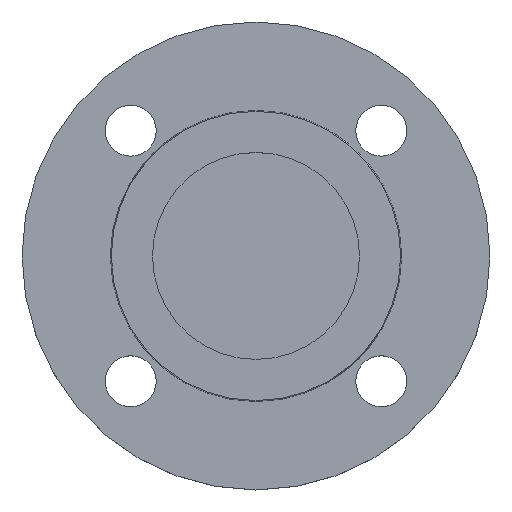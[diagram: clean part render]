
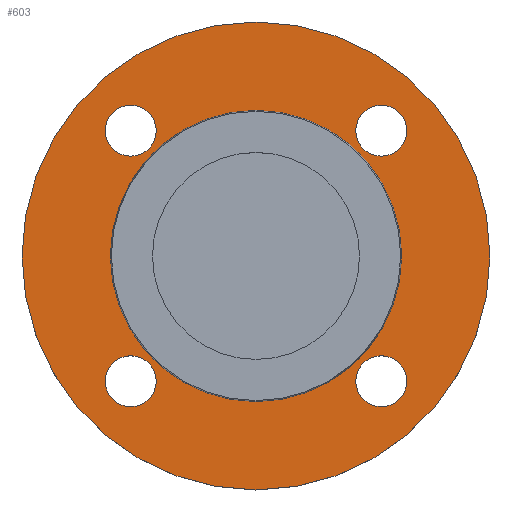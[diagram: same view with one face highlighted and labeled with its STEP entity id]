
A CAD part, top view. The second image highlights one B-rep face of the part: STEP entity #603.
In plain terms, the highlighted planar face has unit normal (0, 0, 1).
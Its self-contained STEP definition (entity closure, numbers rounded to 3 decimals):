
#2 = DIRECTION ( 'NONE',  ( 1., 0., 0. ) ) ;
#10 = EDGE_CURVE ( 'NONE', #465, #434, #194, .T. ) ;
#30 = CIRCLE ( 'NONE', #502, 9. ) ;
#38 = EDGE_CURVE ( 'NONE', #265, #490, #92, .T. ) ;
#40 = AXIS2_PLACEMENT_3D ( 'NONE', #655, #657, #659 ) ;
#43 = AXIS2_PLACEMENT_3D ( 'NONE', #727, #728, #374 ) ;
#51 = DIRECTION ( 'NONE',  ( 0., 0., -1. ) ) ;
#57 = DIRECTION ( 'NONE',  ( -1., 0., 0. ) ) ;
#76 = DIRECTION ( 'NONE',  ( -1., 0., 0. ) ) ;
#88 = DIRECTION ( 'NONE',  ( 1., 0., 0. ) ) ;
#89 = DIRECTION ( 'NONE',  ( 0., 0., -1. ) ) ;
#90 = CARTESIAN_POINT ( 'NONE',  ( -44.194, 44.194, -2. ) ) ;
#91 = DIRECTION ( 'NONE',  ( 1., 0., 0. ) ) ;
#92 = CIRCLE ( 'NONE', #464, 51.353 ) ;
#93 = DIRECTION ( 'NONE',  ( 0., 0., 1. ) ) ;
#94 = CARTESIAN_POINT ( 'NONE',  ( 51.353, 0., -2. ) ) ;
#95 = PLANE ( 'NONE',  #713 ) ;
#96 = FACE_OUTER_BOUND ( 'NONE', #324, .T. ) ;
#97 = EDGE_CURVE ( 'NONE', #472, #463, #262, .T. ) ;
#100 = FACE_BOUND ( 'NONE', #333, .T. ) ;
#101 = FACE_BOUND ( 'NONE', #261, .T. ) ;
#103 = FACE_BOUND ( 'NONE', #249, .T. ) ;
#105 = FACE_BOUND ( 'NONE', #455, .T. ) ;
#108 = CIRCLE ( 'NONE', #366, 9. ) ;
#116 = AXIS2_PLACEMENT_3D ( 'NONE', #90, #89, #88 ) ;
#130 = CARTESIAN_POINT ( 'NONE',  ( 53.194, -44.194, -2. ) ) ;
#132 = AXIS2_PLACEMENT_3D ( 'NONE', #680, #197, #673 ) ;
#155 = CARTESIAN_POINT ( 'NONE',  ( 51.353, 0., -2. ) ) ;
#191 = CARTESIAN_POINT ( 'NONE',  ( 44.194, 44.194, -2. ) ) ;
#194 = CIRCLE ( 'NONE', #508, 9. ) ;
#195 = CIRCLE ( 'NONE', #116, 9. ) ;
#197 = DIRECTION ( 'NONE',  ( 0., 0., -1. ) ) ;
#200 = CARTESIAN_POINT ( 'NONE',  ( 44.194, -44.194, -2. ) ) ;
#201 = DIRECTION ( 'NONE',  ( 0., 0., -1. ) ) ;
#202 = DIRECTION ( 'NONE',  ( 1., 0., 0. ) ) ;
#212 = EDGE_CURVE ( 'NONE', #434, #465, #218, .T. ) ;
#218 = CIRCLE ( 'NONE', #40, 9. ) ;
#244 = VERTEX_POINT ( 'NONE', #702 ) ;
#249 = EDGE_LOOP ( 'NONE', ( #342, #438 ) ) ;
#261 = EDGE_LOOP ( 'NONE', ( #442, #345 ) ) ;
#262 = CIRCLE ( 'NONE', #661, 9. ) ;
#265 = VERTEX_POINT ( 'NONE', #720 ) ;
#266 = EDGE_LOOP ( 'NONE', ( #336, #338 ) ) ;
#268 = VERTEX_POINT ( 'NONE', #725 ) ;
#272 = CIRCLE ( 'NONE', #535, 82.5 ) ;
#283 = VERTEX_POINT ( 'NONE', #726 ) ;
#285 = EDGE_CURVE ( 'NONE', #268, #283, #677, .T. ) ;
#291 = EDGE_CURVE ( 'NONE', #244, #496, #108, .T. ) ;
#297 = DIRECTION ( 'NONE',  ( 0., 0., -1. ) ) ;
#317 = EDGE_CURVE ( 'NONE', #490, #265, #573, .T. ) ;
#324 = EDGE_LOOP ( 'NONE', ( #351, #352 ) ) ;
#333 = EDGE_LOOP ( 'NONE', ( #348, #350 ) ) ;
#336 = ORIENTED_EDGE ( 'NONE', *, *, #97, .T. ) ;
#338 = ORIENTED_EDGE ( 'NONE', *, *, #380, .T. ) ;
#340 = ORIENTED_EDGE ( 'NONE', *, *, #212, .T. ) ;
#341 = ORIENTED_EDGE ( 'NONE', *, *, #10, .T. ) ;
#342 = ORIENTED_EDGE ( 'NONE', *, *, #630, .T. ) ;
#345 = ORIENTED_EDGE ( 'NONE', *, *, #291, .T. ) ;
#348 = ORIENTED_EDGE ( 'NONE', *, *, #38, .T. ) ;
#350 = ORIENTED_EDGE ( 'NONE', *, *, #317, .T. ) ;
#351 = ORIENTED_EDGE ( 'NONE', *, *, #370, .F. ) ;
#352 = ORIENTED_EDGE ( 'NONE', *, *, #678, .F. ) ;
#366 = AXIS2_PLACEMENT_3D ( 'NONE', #191, #701, #2 ) ;
#370 = EDGE_CURVE ( 'NONE', #439, #466, #512, .T. ) ;
#374 = DIRECTION ( 'NONE',  ( 1., 0., 0. ) ) ;
#379 = AXIS2_PLACEMENT_3D ( 'NONE', #200, #201, #202 ) ;
#380 = EDGE_CURVE ( 'NONE', #463, #472, #665, .T. ) ;
#382 = CARTESIAN_POINT ( 'NONE',  ( -35.194, -44.194, -2. ) ) ;
#408 = CARTESIAN_POINT ( 'NONE',  ( 82.5, 0., -2. ) ) ;
#415 = CARTESIAN_POINT ( 'NONE',  ( 44.194, 44.194, -2. ) ) ;
#420 = DIRECTION ( 'NONE',  ( 0., 0., -1. ) ) ;
#426 = DIRECTION ( 'NONE',  ( 1., 0., 0. ) ) ;
#434 = VERTEX_POINT ( 'NONE', #382 ) ;
#438 = ORIENTED_EDGE ( 'NONE', *, *, #285, .T. ) ;
#439 = VERTEX_POINT ( 'NONE', #408 ) ;
#442 = ORIENTED_EDGE ( 'NONE', *, *, #449, .T. ) ;
#449 = EDGE_CURVE ( 'NONE', #496, #244, #30, .T. ) ;
#455 = EDGE_LOOP ( 'NONE', ( #340, #341 ) ) ;
#463 = VERTEX_POINT ( 'NONE', #485 ) ;
#464 = AXIS2_PLACEMENT_3D ( 'NONE', #526, #529, #530 ) ;
#465 = VERTEX_POINT ( 'NONE', #491 ) ;
#466 = VERTEX_POINT ( 'NONE', #494 ) ;
#472 = VERTEX_POINT ( 'NONE', #130 ) ;
#485 = CARTESIAN_POINT ( 'NONE',  ( 35.194, -44.194, -2. ) ) ;
#490 = VERTEX_POINT ( 'NONE', #155 ) ;
#491 = CARTESIAN_POINT ( 'NONE',  ( -53.194, -44.194, -2. ) ) ;
#494 = CARTESIAN_POINT ( 'NONE',  ( -82.5, 0., -2. ) ) ;
#496 = VERTEX_POINT ( 'NONE', #653 ) ;
#502 = AXIS2_PLACEMENT_3D ( 'NONE', #415, #420, #426 ) ;
#508 = AXIS2_PLACEMENT_3D ( 'NONE', #510, #515, #516 ) ;
#510 = CARTESIAN_POINT ( 'NONE',  ( -44.194, -44.194, -2. ) ) ;
#511 = FACE_BOUND ( 'NONE', #266, .T. ) ;
#512 = CIRCLE ( 'NONE', #132, 82.5 ) ;
#515 = DIRECTION ( 'NONE',  ( 0., 0., -1. ) ) ;
#516 = DIRECTION ( 'NONE',  ( 1., 0., 0. ) ) ;
#526 = CARTESIAN_POINT ( 'NONE',  ( 0., 0., -2. ) ) ;
#529 = DIRECTION ( 'NONE',  ( 0., 0., -1. ) ) ;
#530 = DIRECTION ( 'NONE',  ( -1., 0., 0. ) ) ;
#535 = AXIS2_PLACEMENT_3D ( 'NONE', #565, #297, #76 ) ;
#561 = CARTESIAN_POINT ( 'NONE',  ( 0., 0., -2. ) ) ;
#565 = CARTESIAN_POINT ( 'NONE',  ( 0., 0., -2. ) ) ;
#573 = CIRCLE ( 'NONE', #584, 51.353 ) ;
#584 = AXIS2_PLACEMENT_3D ( 'NONE', #561, #51, #57 ) ;
#587 = CARTESIAN_POINT ( 'NONE',  ( 44.194, -44.194, -2. ) ) ;
#588 = DIRECTION ( 'NONE',  ( 0., 0., -1. ) ) ;
#589 = DIRECTION ( 'NONE',  ( 1., 0., 0. ) ) ;
#603 = ADVANCED_FACE ( 'NONE', ( #511, #105, #103, #101, #100, #96 ), #95, .T. ) ;
#630 = EDGE_CURVE ( 'NONE', #283, #268, #195, .T. ) ;
#653 = CARTESIAN_POINT ( 'NONE',  ( 53.194, 44.194, -2. ) ) ;
#655 = CARTESIAN_POINT ( 'NONE',  ( -44.194, -44.194, -2. ) ) ;
#657 = DIRECTION ( 'NONE',  ( 0., 0., -1. ) ) ;
#659 = DIRECTION ( 'NONE',  ( 1., 0., 0. ) ) ;
#661 = AXIS2_PLACEMENT_3D ( 'NONE', #587, #588, #589 ) ;
#665 = CIRCLE ( 'NONE', #379, 9. ) ;
#673 = DIRECTION ( 'NONE',  ( -1., 0., 0. ) ) ;
#677 = CIRCLE ( 'NONE', #43, 9. ) ;
#678 = EDGE_CURVE ( 'NONE', #466, #439, #272, .T. ) ;
#680 = CARTESIAN_POINT ( 'NONE',  ( 0., 0., -2. ) ) ;
#701 = DIRECTION ( 'NONE',  ( 0., 0., -1. ) ) ;
#702 = CARTESIAN_POINT ( 'NONE',  ( 35.194, 44.194, -2. ) ) ;
#713 = AXIS2_PLACEMENT_3D ( 'NONE', #94, #93, #91 ) ;
#720 = CARTESIAN_POINT ( 'NONE',  ( -51.353, 0., -2. ) ) ;
#725 = CARTESIAN_POINT ( 'NONE',  ( -53.194, 44.194, -2. ) ) ;
#726 = CARTESIAN_POINT ( 'NONE',  ( -35.194, 44.194, -2. ) ) ;
#727 = CARTESIAN_POINT ( 'NONE',  ( -44.194, 44.194, -2. ) ) ;
#728 = DIRECTION ( 'NONE',  ( 0., 0., -1. ) ) ;
